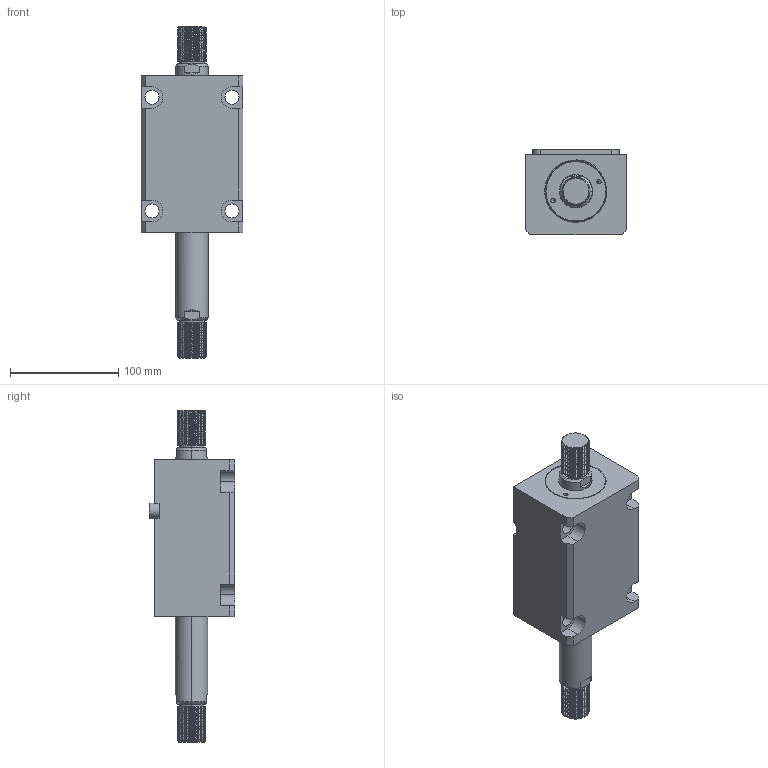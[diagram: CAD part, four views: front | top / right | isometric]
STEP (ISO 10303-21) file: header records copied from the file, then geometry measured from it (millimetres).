
FILE_DESCRIPTION (( 'STEP AP203' ), '1' );
FILE_NAME ('CHTB-LWM50-70W.STEP', '2018-05-22T07:17:35', ( '' ), ( '' ), 'SwSTEP 2.0', 'SolidWorks 2015', '' );
FILE_SCHEMA (( 'CONFIG_CONTROL_DESIGN' ));
Length unit declared in the file: millimetre
Products named in the file (4): CHTM-SDMA50QG; CHTB-LWM50-70W; 掛极LWM50-70W; 活塞杆LWM50-70W
Assembly tree (3 placements, depth 2):
  CHTB-LWM50-70W
    掛极LWM50-70W
    CHTM-SDMA50QG
    活塞杆LWM50-70W
Bounding box: 94 x 79 x 307 mm (x, y, z)
Volume: 965972.8 mm3; surface area: 147152.8 mm2
Topology: 3 solids, 3 shells, 302 faces, 837 edges, 557 vertices
Faces by surface type: cylinder 188, plane 62, cone 18, bspline 18, torus 16
Entity records: 19248 total; most frequent: CARTESIAN_POINT 11864, ORIENTED_EDGE 1666, DIRECTION 1265, EDGE_CURVE 833, VERTEX_POINT 557, AXIS2_PLACEMENT_3D 483, EDGE_LOOP 338, FACE_OUTER_BOUND 302
